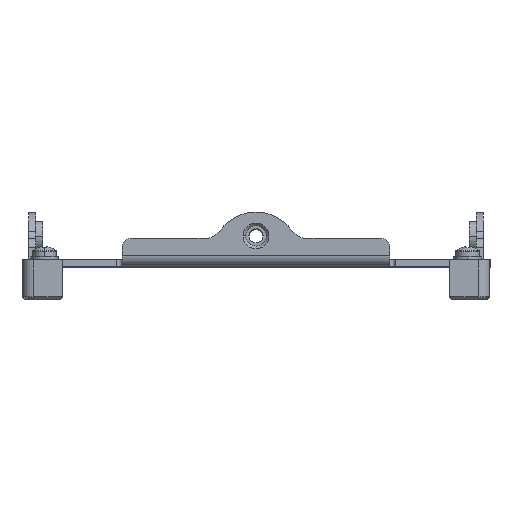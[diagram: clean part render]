
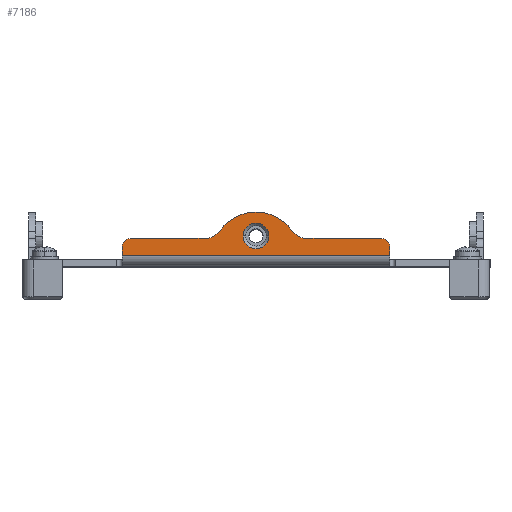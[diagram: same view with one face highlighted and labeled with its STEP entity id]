
A CAD part, top view. The second image highlights one B-rep face of the part: STEP entity #7186.
In plain terms, the highlighted planar face has unit normal (0, 0, 1).
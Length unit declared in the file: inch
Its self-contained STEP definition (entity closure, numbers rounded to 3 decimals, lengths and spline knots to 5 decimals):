
#374 = CARTESIAN_POINT ( 'NONE',  ( -0.30791, 0.29496, 1.9135 ) ) ;
#899 = VERTEX_POINT ( 'NONE', #1102 ) ;
#1052 = VERTEX_POINT ( 'NONE', #11262 ) ;
#1087 = DIRECTION ( 'NONE',  ( 0., -1., 0. ) ) ;
#1098 = CARTESIAN_POINT ( 'NONE',  ( -1.126, 0.45276, 1.9135 ) ) ;
#1102 = CARTESIAN_POINT ( 'NONE',  ( 1.046, 0.23622, 1.9135 ) ) ;
#1121 = VERTEX_POINT ( 'NONE', #6684 ) ;
#1313 = DIRECTION ( 'NONE',  ( 1., 0., 0. ) ) ;
#1494 = AXIS2_PLACEMENT_3D ( 'NONE', #12905, #3109, #14460 ) ;
#1536 = LINE ( 'NONE', #8950, #8844 ) ;
#1664 = EDGE_CURVE ( 'NONE', #11617, #4757, #20625, .T. ) ;
#1727 = EDGE_CURVE ( 'NONE', #4757, #13615, #11474, .T. ) ;
#1760 = EDGE_CURVE ( 'NONE', #13615, #899, #19246, .T. ) ;
#1804 = EDGE_CURVE ( 'NONE', #14851, #899, #18266, .T. ) ;
#1860 = EDGE_CURVE ( 'NONE', #1121, #14289, #11708, .T. ) ;
#1937 = EDGE_CURVE ( 'NONE', #5281, #1121, #5346, .T. ) ;
#2004 = EDGE_CURVE ( 'NONE', #5281, #11620, #16573, .T. ) ;
#2041 = EDGE_CURVE ( 'NONE', #11620, #11617, #17291, .T. ) ;
#2046 = EDGE_CURVE ( 'NONE', #2090, #1052, #13170, .T. ) ;
#2069 = EDGE_CURVE ( 'NONE', #14851, #4548, #5074, .T. ) ;
#2090 = VERTEX_POINT ( 'NONE', #2193 ) ;
#2188 = VECTOR ( 'NONE', #5667, 39.37008 ) ;
#2193 = CARTESIAN_POINT ( 'NONE',  ( 0.108, 0.25591, 1.9135 ) ) ;
#2796 = DIRECTION ( 'NONE',  ( 0., 0., -1. ) ) ;
#2836 = DIRECTION ( 'NONE',  ( 0., -1., 0. ) ) ;
#2884 = CARTESIAN_POINT ( 'NONE',  ( 1.126, 0.45276, 1.9135 ) ) ;
#3024 = PLANE ( 'NONE',  #7265 ) ;
#3060 = DIRECTION ( 'NONE',  ( 0., -1., 0. ) ) ;
#3106 = CARTESIAN_POINT ( 'NONE',  ( -1.1711, 0.45276, 1.9135 ) ) ;
#3108 = DIRECTION ( 'NONE',  ( 0., 0., 1. ) ) ;
#3109 = DIRECTION ( 'NONE',  ( 0., 0., -1. ) ) ;
#3174 = CARTESIAN_POINT ( 'NONE',  ( 1.046, 0.15622, 1.9135 ) ) ;
#3479 = DIRECTION ( 'NONE',  ( 0., -1., 0. ) ) ;
#4548 = VERTEX_POINT ( 'NONE', #5963 ) ;
#4757 = VERTEX_POINT ( 'NONE', #14424 ) ;
#5074 = LINE ( 'NONE', #2884, #12689 ) ;
#5201 = CARTESIAN_POINT ( 'NONE',  ( -1.126, 0.09, 1.9135 ) ) ;
#5251 = CARTESIAN_POINT ( 'NONE',  ( 1.126, 0.23622, 1.9135 ) ) ;
#5281 = VERTEX_POINT ( 'NONE', #16438 ) ;
#5346 = CIRCLE ( 'NONE', #17760, 0.08 ) ;
#5444 = CARTESIAN_POINT ( 'NONE',  ( 0.42028, 0.23622, 1.9135 ) ) ;
#5667 = DIRECTION ( 'NONE',  ( 1., 0., 0. ) ) ;
#5954 = DIRECTION ( 'NONE',  ( -1., 0., 0. ) ) ;
#5963 = CARTESIAN_POINT ( 'NONE',  ( 1.126, 0.09, 1.9135 ) ) ;
#5978 = DIRECTION ( 'NONE',  ( 0., 0., 1. ) ) ;
#6000 = CARTESIAN_POINT ( 'NONE',  ( 0.42028, 0.37307, 1.9135 ) ) ;
#6369 = DIRECTION ( 'NONE',  ( 0., -1., 0. ) ) ;
#6565 = DIRECTION ( 'NONE',  ( 0., 0., -1. ) ) ;
#6684 = CARTESIAN_POINT ( 'NONE',  ( -1.126, 0.15622, 1.9135 ) ) ;
#7139 = DIRECTION ( 'NONE',  ( 0., 0., 1. ) ) ;
#7186 = ADVANCED_FACE ( 'NONE', ( #19865, #15767 ), #3024, .F. ) ;
#7265 = AXIS2_PLACEMENT_3D ( 'NONE', #3106, #2796, #2836 ) ;
#7647 = CARTESIAN_POINT ( 'NONE',  ( -0.42028, 0.37307, 1.9135 ) ) ;
#7774 = DIRECTION ( 'NONE',  ( -1., 0., 0. ) ) ;
#7782 = DIRECTION ( 'NONE',  ( 0., 0., -1. ) ) ;
#7900 = CARTESIAN_POINT ( 'NONE',  ( 0., 0.08091, 1.9135 ) ) ;
#8400 = EDGE_LOOP ( 'NONE', ( #15479, #15673 ) ) ;
#8626 = CARTESIAN_POINT ( 'NONE',  ( 0., 0.25591, 1.9135 ) ) ;
#8844 = VECTOR ( 'NONE', #19899, 39.37008 ) ;
#8950 = CARTESIAN_POINT ( 'NONE',  ( -1.126, 0.09, 1.9135 ) ) ;
#9279 = EDGE_CURVE ( 'NONE', #1052, #2090, #13019, .T. ) ;
#11262 = CARTESIAN_POINT ( 'NONE',  ( -0.108, 0.25591, 1.9135 ) ) ;
#11474 = CIRCLE ( 'NONE', #18190, 0.13685 ) ;
#11617 = VERTEX_POINT ( 'NONE', #374 ) ;
#11620 = VERTEX_POINT ( 'NONE', #15123 ) ;
#11708 = LINE ( 'NONE', #1098, #18997 ) ;
#12689 = VECTOR ( 'NONE', #3479, 39.37008 ) ;
#12905 = CARTESIAN_POINT ( 'NONE',  ( 0., 0.25591, 1.9135 ) ) ;
#13019 = CIRCLE ( 'NONE', #1494, 0.108 ) ;
#13170 = CIRCLE ( 'NONE', #17436, 0.108 ) ;
#13338 = CARTESIAN_POINT ( 'NONE',  ( -1.126, 0.23622, 1.9135 ) ) ;
#13567 = DIRECTION ( 'NONE',  ( 1., 0., 0. ) ) ;
#13615 = VERTEX_POINT ( 'NONE', #5444 ) ;
#14289 = VERTEX_POINT ( 'NONE', #5201 ) ;
#14424 = CARTESIAN_POINT ( 'NONE',  ( 0.30791, 0.29496, 1.9135 ) ) ;
#14460 = DIRECTION ( 'NONE',  ( 0., -1., 0. ) ) ;
#14851 = VERTEX_POINT ( 'NONE', #17305 ) ;
#15123 = CARTESIAN_POINT ( 'NONE',  ( -0.42028, 0.23622, 1.9135 ) ) ;
#15479 = ORIENTED_EDGE ( 'NONE', *, *, #9279, .T. ) ;
#15673 = ORIENTED_EDGE ( 'NONE', *, *, #2046, .T. ) ;
#15767 = FACE_OUTER_BOUND ( 'NONE', #18247, .T. ) ;
#16200 = ORIENTED_EDGE ( 'NONE', *, *, #2041, .F. ) ;
#16438 = CARTESIAN_POINT ( 'NONE',  ( -1.046, 0.23622, 1.9135 ) ) ;
#16491 = ORIENTED_EDGE ( 'NONE', *, *, #2004, .F. ) ;
#16573 = LINE ( 'NONE', #13338, #19703 ) ;
#16645 = ORIENTED_EDGE ( 'NONE', *, *, #1937, .T. ) ;
#16864 = ORIENTED_EDGE ( 'NONE', *, *, #1860, .T. ) ;
#16905 = ORIENTED_EDGE ( 'NONE', *, *, #17211, .T. ) ;
#17116 = ORIENTED_EDGE ( 'NONE', *, *, #2069, .F. ) ;
#17211 = EDGE_CURVE ( 'NONE', #14289, #4548, #1536, .T. ) ;
#17291 = CIRCLE ( 'NONE', #17399, 0.13685 ) ;
#17305 = CARTESIAN_POINT ( 'NONE',  ( 1.126, 0.15622, 1.9135 ) ) ;
#17326 = DIRECTION ( 'NONE',  ( 0., 0., 1. ) ) ;
#17356 = ORIENTED_EDGE ( 'NONE', *, *, #1804, .T. ) ;
#17399 = AXIS2_PLACEMENT_3D ( 'NONE', #7647, #7139, #1313 ) ;
#17405 = ORIENTED_EDGE ( 'NONE', *, *, #1760, .F. ) ;
#17436 = AXIS2_PLACEMENT_3D ( 'NONE', #8626, #6565, #6369 ) ;
#17665 = ORIENTED_EDGE ( 'NONE', *, *, #1727, .F. ) ;
#17686 = ORIENTED_EDGE ( 'NONE', *, *, #1664, .F. ) ;
#17760 = AXIS2_PLACEMENT_3D ( 'NONE', #17796, #17326, #17800 ) ;
#17796 = CARTESIAN_POINT ( 'NONE',  ( -1.046, 0.15622, 1.9135 ) ) ;
#17800 = DIRECTION ( 'NONE',  ( 0., -1., 0. ) ) ;
#18097 = AXIS2_PLACEMENT_3D ( 'NONE', #3174, #3108, #3060 ) ;
#18190 = AXIS2_PLACEMENT_3D ( 'NONE', #6000, #5978, #5954 ) ;
#18247 = EDGE_LOOP ( 'NONE', ( #16200, #16491, #16645, #16864, #16905, #17116, #17356, #17405, #17665, #17686 ) ) ;
#18266 = CIRCLE ( 'NONE', #18097, 0.08 ) ;
#18394 = AXIS2_PLACEMENT_3D ( 'NONE', #7900, #7782, #7774 ) ;
#18997 = VECTOR ( 'NONE', #1087, 39.37008 ) ;
#19246 = LINE ( 'NONE', #5251, #2188 ) ;
#19703 = VECTOR ( 'NONE', #13567, 39.37008 ) ;
#19865 = FACE_BOUND ( 'NONE', #8400, .T. ) ;
#19899 = DIRECTION ( 'NONE',  ( 1., 0., 0. ) ) ;
#20625 = CIRCLE ( 'NONE', #18394, 0.375 ) ;
